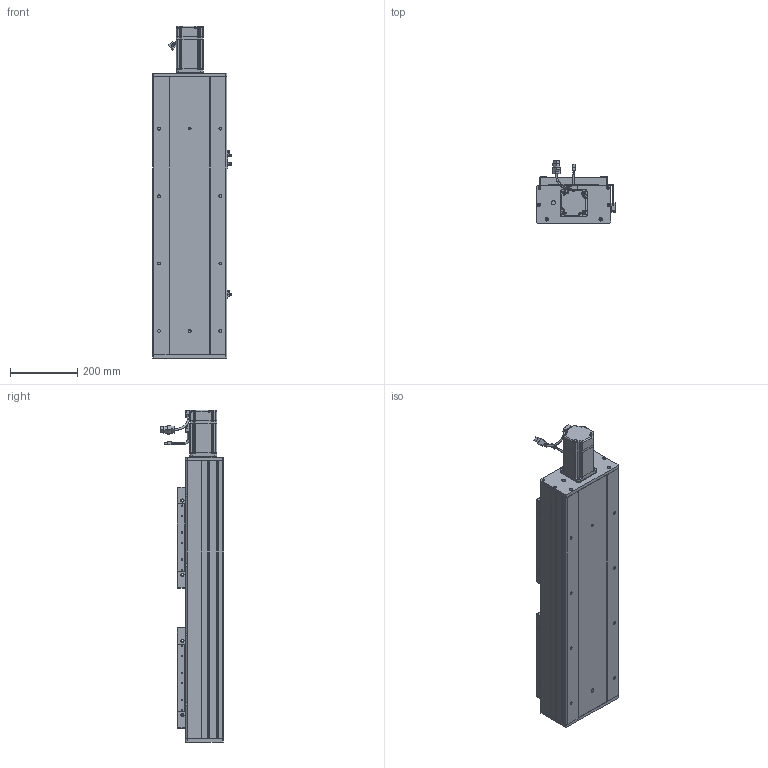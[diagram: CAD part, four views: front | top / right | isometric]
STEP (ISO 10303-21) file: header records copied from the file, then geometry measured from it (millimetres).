
FILE_DESCRIPTION (( 'STEP AP203' ), '1' );
FILE_NAME ('RY220F-L2525-300-MK.SLDASM_400.step', '2022-07-04T01:03:16', ( '' ), ( '' ), 'SwSTEP 2.0', 'SolidWorks 2016', '' );
FILE_SCHEMA (( 'CONFIG_CONTROL_DESIGN' ));
Length unit declared in the file: millimetre
Products named in the file (15): RY220F-奻裔啣-300_400; RY220Fヶ裔啣; 覜茼ん672; RY220F菁釱MK-300_400; RY220电机支撑座FK20（PCD90M6）; RY220F-詩湍揤踡輸; RY220F-L2525-300-MK.SLDASM_400; 怢湛750W_ECMA-CX0807ES; RY220F-祥凄詩湍-MK-300_400; 滅袉蝶18-24; 滅袉蝶18-20; RY220F-滅鳥奻裔; RY220F臏賑釱25-32佪裝; RY220F綴裔啣; RY220F-672覜茼んえ
Assembly tree (23 placements, depth 2):
  RY220F-L2525-300-MK.SLDASM_400
    RY220F菁釱MK-300_400
    RY220电机支撑座FK20（PCD90M6）
    RY220F-奻裔啣-300_400  x2
    怢湛750W_ECMA-CX0807ES
    RY220F臏賑釱25-32佪裝  x2
    RY220F-滅鳥奻裔  x2
    滅袉蝶18-20
    滅袉蝶18-24  x3
    RY220Fヶ裔啣
    RY220F綴裔啣
    RY220F-祥凄詩湍-MK-300_400
    RY220F-詩湍揤踡輸  x2
    覜茼ん672  x3
    RY220F-672覜茼んえ  x2
Bounding box: 233.7 x 187.27 x 984.3 mm (x, y, z)
Volume: 10884303 mm3; surface area: 2578638.5 mm2
Topology: 24 solids, 24 shells, 2658 faces, 7298 edges, 4542 vertices
Faces by surface type: cylinder 1190, plane 1030, cone 375, bspline 37, sphere 16, torus 10
Entity records: 66098 total; most frequent: CARTESIAN_POINT 18018, ORIENTED_EDGE 9778, DIRECTION 9406, EDGE_CURVE 4889, AXIS2_PLACEMENT_3D 3323, VERTEX_POINT 3182, VECTOR 2760, LINE 2760
